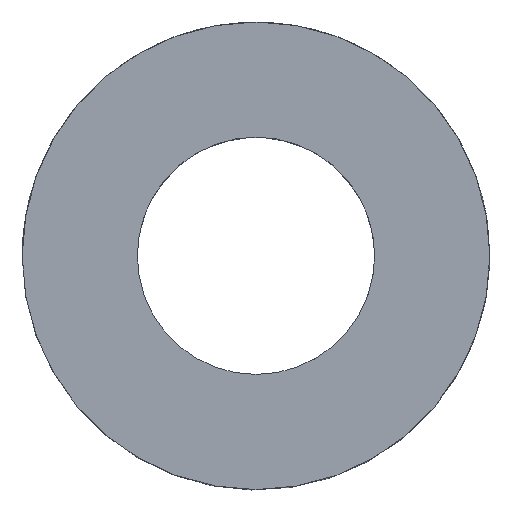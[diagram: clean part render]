
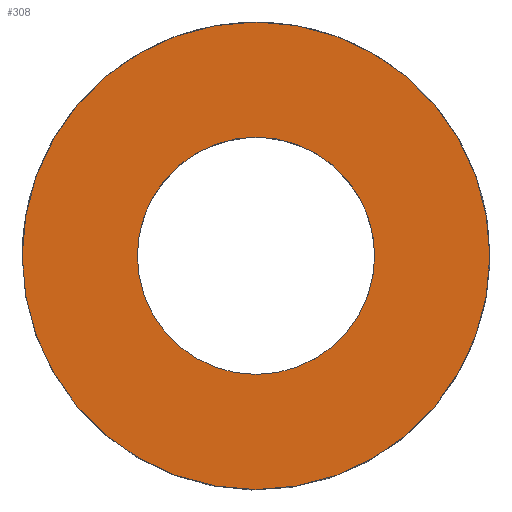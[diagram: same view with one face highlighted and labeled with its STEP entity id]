
A CAD part, top view. The second image highlights one B-rep face of the part: STEP entity #308.
In plain terms, the highlighted planar face has unit normal (0, 0, 1).
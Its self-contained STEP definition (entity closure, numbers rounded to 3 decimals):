
#21=FACE_BOUND('',#53,.T.);
#24=PLANE('',#360);
#33=FACE_OUTER_BOUND('',#52,.T.);
#52=EDGE_LOOP('',(#243,#244));
#53=EDGE_LOOP('',(#245,#246));
#106=CIRCLE('',#342,2.075);
#107=CIRCLE('',#343,2.075);
#114=CIRCLE('',#355,4.089);
#118=CIRCLE('',#359,4.089);
#128=VERTEX_POINT('',#478);
#129=VERTEX_POINT('',#479);
#144=VERTEX_POINT('',#556);
#145=VERTEX_POINT('',#557);
#156=EDGE_CURVE('',#128,#129,#106,.T.);
#157=EDGE_CURVE('',#129,#128,#107,.T.);
#177=EDGE_CURVE('',#144,#145,#114,.T.);
#186=EDGE_CURVE('',#145,#144,#118,.T.);
#243=ORIENTED_EDGE('',*,*,#177,.F.);
#244=ORIENTED_EDGE('',*,*,#186,.F.);
#245=ORIENTED_EDGE('',*,*,#156,.T.);
#246=ORIENTED_EDGE('',*,*,#157,.T.);
#308=ADVANCED_FACE('',(#33,#21),#24,.F.);
#342=AXIS2_PLACEMENT_3D('',#480,#384,#385);
#343=AXIS2_PLACEMENT_3D('',#481,#386,#387);
#355=AXIS2_PLACEMENT_3D('',#558,#419,#420);
#359=AXIS2_PLACEMENT_3D('',#616,#430,#431);
#360=AXIS2_PLACEMENT_3D('',#617,#432,#433);
#384=DIRECTION('center_axis',(0.,0.,-1.));
#385=DIRECTION('ref_axis',(1.,0.,0.));
#386=DIRECTION('center_axis',(0.,0.,-1.));
#387=DIRECTION('ref_axis',(1.,0.,0.));
#419=DIRECTION('center_axis',(0.,0.,-1.));
#420=DIRECTION('ref_axis',(1.,0.,0.));
#430=DIRECTION('center_axis',(0.,0.,-1.));
#431=DIRECTION('ref_axis',(1.,0.,0.));
#432=DIRECTION('center_axis',(0.,0.,-1.));
#433=DIRECTION('ref_axis',(-1.,0.,0.));
#478=CARTESIAN_POINT('',(2.075,0.,-3.983));
#479=CARTESIAN_POINT('',(-2.075,0.,-3.983));
#480=CARTESIAN_POINT('Origin',(0.,0.,-3.983));
#481=CARTESIAN_POINT('Origin',(0.,0.,-3.983));
#556=CARTESIAN_POINT('',(0.,-4.089,-3.983));
#557=CARTESIAN_POINT('',(-4.089,0.,-3.983));
#558=CARTESIAN_POINT('Origin',(0.,0.,-3.983));
#616=CARTESIAN_POINT('Origin',(0.,0.,-3.983));
#617=CARTESIAN_POINT('Origin',(11.394,-9.814,-3.983));
